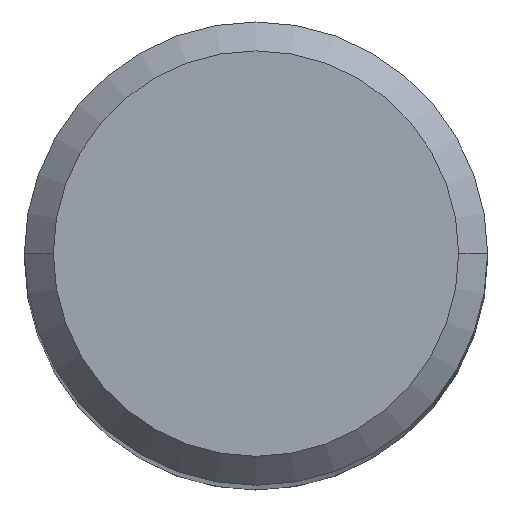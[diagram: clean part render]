
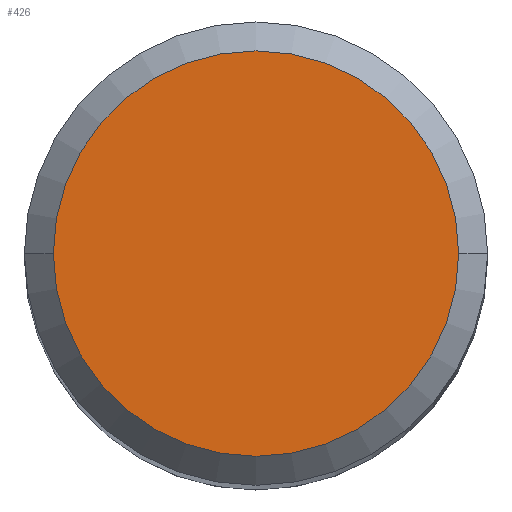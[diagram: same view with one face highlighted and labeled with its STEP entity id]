
A CAD part, top view. The second image highlights one B-rep face of the part: STEP entity #426.
In plain terms, the highlighted planar face has unit normal (0, 0, 1).
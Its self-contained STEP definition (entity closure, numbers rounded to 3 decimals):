
#39 = EDGE_CURVE ( 'NONE', #525, #202, #692, .T. ) ;
#137 = DIRECTION ( 'NONE',  ( 0., 0., 1. ) ) ;
#147 = CARTESIAN_POINT ( 'NONE',  ( 7., 0., 95. ) ) ;
#159 = DIRECTION ( 'NONE',  ( 1., 0., 0. ) ) ;
#166 = FACE_OUTER_BOUND ( 'NONE', #532, .T. ) ;
#200 = ORIENTED_EDGE ( 'NONE', *, *, #39, .T. ) ;
#202 = VERTEX_POINT ( 'NONE', #147 ) ;
#204 = ORIENTED_EDGE ( 'NONE', *, *, #511, .T. ) ;
#211 = DIRECTION ( 'NONE',  ( 0., 0., 1. ) ) ;
#223 = DIRECTION ( 'NONE',  ( 1., 0., 0. ) ) ;
#265 = CIRCLE ( 'NONE', #492, 7. ) ;
#293 = AXIS2_PLACEMENT_3D ( 'NONE', #574, #137, #223 ) ;
#426 = ADVANCED_FACE ( 'NONE', ( #166 ), #669, .T. ) ;
#449 = CARTESIAN_POINT ( 'NONE',  ( -7., 0., 95. ) ) ;
#492 = AXIS2_PLACEMENT_3D ( 'NONE', #589, #211, #159 ) ;
#496 = DIRECTION ( 'NONE',  ( 0., 0., 1. ) ) ;
#511 = EDGE_CURVE ( 'NONE', #202, #525, #265, .T. ) ;
#525 = VERTEX_POINT ( 'NONE', #449 ) ;
#527 = AXIS2_PLACEMENT_3D ( 'NONE', #703, #496, #711 ) ;
#532 = EDGE_LOOP ( 'NONE', ( #200, #204 ) ) ;
#574 = CARTESIAN_POINT ( 'NONE',  ( 0., 0., 95. ) ) ;
#589 = CARTESIAN_POINT ( 'NONE',  ( 0., 0., 95. ) ) ;
#669 = PLANE ( 'NONE',  #293 ) ;
#692 = CIRCLE ( 'NONE', #527, 7. ) ;
#703 = CARTESIAN_POINT ( 'NONE',  ( 0., 0., 95. ) ) ;
#711 = DIRECTION ( 'NONE',  ( 1., 0., 0. ) ) ;
